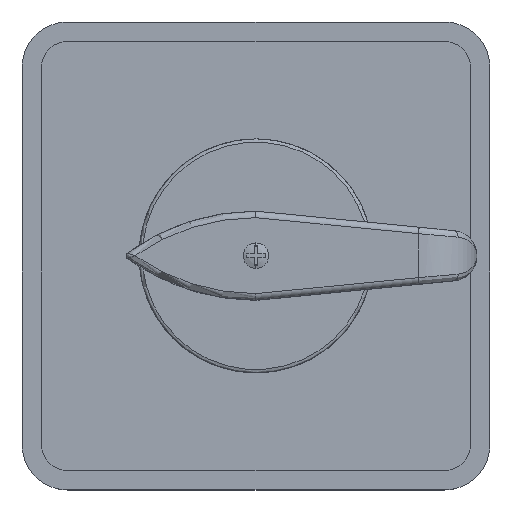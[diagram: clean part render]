
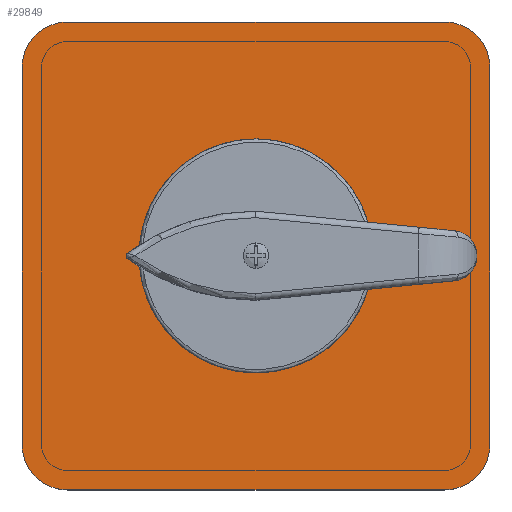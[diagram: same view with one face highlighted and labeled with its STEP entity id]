
A CAD part, top view. The second image highlights one B-rep face of the part: STEP entity #29849.
In plain terms, the highlighted planar face has unit normal (0, 0, 1).
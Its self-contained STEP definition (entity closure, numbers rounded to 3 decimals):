
#6333=CARTESIAN_POINT('',(29.,29.,3.35));
#6334=DIRECTION('',(0.,0.,1.));
#6335=DIRECTION('',(1.,0.,0.));
#6336=AXIS2_PLACEMENT_3D('',#6333,#6334,#6335);
#6338=DIRECTION('',(0.,1.,0.));
#6339=VECTOR('',#6338,58.);
#6340=CARTESIAN_POINT('',(36.,-29.,3.35));
#6341=LINE('',#6340,#6339);
#6342=CARTESIAN_POINT('',(29.,-29.,3.35));
#6343=DIRECTION('',(0.,0.,1.));
#6344=DIRECTION('',(0.,-1.,0.));
#6345=AXIS2_PLACEMENT_3D('',#6342,#6343,#6344);
#6347=DIRECTION('',(1.,0.,0.));
#6348=VECTOR('',#6347,58.);
#6349=CARTESIAN_POINT('',(-29.,-36.,3.35));
#6350=LINE('',#6349,#6348);
#6351=CARTESIAN_POINT('',(-29.,-29.,3.35));
#6352=DIRECTION('',(0.,0.,1.));
#6353=DIRECTION('',(-1.,0.,0.));
#6354=AXIS2_PLACEMENT_3D('',#6351,#6352,#6353);
#6356=DIRECTION('',(0.,-1.,0.));
#6357=VECTOR('',#6356,58.);
#6358=CARTESIAN_POINT('',(-36.,29.,3.35));
#6359=LINE('',#6358,#6357);
#6360=CARTESIAN_POINT('',(-29.,29.,3.35));
#6361=DIRECTION('',(0.,0.,1.));
#6362=DIRECTION('',(0.,1.,0.));
#6363=AXIS2_PLACEMENT_3D('',#6360,#6361,#6362);
#6365=DIRECTION('',(-1.,0.,0.));
#6366=VECTOR('',#6365,58.);
#6367=CARTESIAN_POINT('',(29.,36.,3.35));
#6368=LINE('',#6367,#6366);
#6369=DIRECTION('',(1.,0.,0.));
#6370=VECTOR('',#6369,8.);
#6371=CARTESIAN_POINT('',(-4.,4.,3.35));
#6372=LINE('',#6371,#6370);
#6381=DIRECTION('',(0.,-1.,0.));
#6382=VECTOR('',#6381,8.);
#6383=CARTESIAN_POINT('',(4.,4.,3.35));
#6384=LINE('',#6383,#6382);
#6393=DIRECTION('',(-1.,0.,0.));
#6394=VECTOR('',#6393,8.);
#6395=CARTESIAN_POINT('',(4.,-4.,3.35));
#6396=LINE('',#6395,#6394);
#6405=DIRECTION('',(0.,1.,0.));
#6406=VECTOR('',#6405,8.);
#6407=CARTESIAN_POINT('',(-4.,-4.,3.35));
#6408=LINE('',#6407,#6406);
#7255=CARTESIAN_POINT('',(0.,0.,3.35));
#7256=DIRECTION('',(0.,0.,1.));
#7257=DIRECTION('',(-0.947,0.322,0.));
#7258=AXIS2_PLACEMENT_3D('',#7255,#7256,#7257);
#7265=DIRECTION('',(-1.,0.,0.));
#7266=VECTOR('',#7265,1.727);
#7267=CARTESIAN_POINT('',(-8.52,-2.9,3.35));
#7268=LINE('',#7267,#7266);
#7290=CARTESIAN_POINT('',(0.,0.,3.35));
#7291=DIRECTION('',(0.,0.,1.));
#7292=DIRECTION('',(-0.962,0.272,0.));
#7293=AXIS2_PLACEMENT_3D('',#7290,#7291,#7292);
#7300=DIRECTION('',(1.,0.,0.));
#7301=VECTOR('',#7300,1.727);
#7302=CARTESIAN_POINT('',(-10.247,2.9,3.35));
#7303=LINE('',#7302,#7301);
#7325=CARTESIAN_POINT('',(0.,0.,3.35));
#7326=DIRECTION('',(0.,0.,1.));
#7327=DIRECTION('',(0.322,0.947,0.));
#7328=AXIS2_PLACEMENT_3D('',#7325,#7326,#7327);
#7335=DIRECTION('',(0.,1.,0.));
#7336=VECTOR('',#7335,1.727);
#7337=CARTESIAN_POINT('',(-2.9,8.52,3.35));
#7338=LINE('',#7337,#7336);
#7360=CARTESIAN_POINT('',(0.,0.,3.35));
#7361=DIRECTION('',(0.,0.,1.));
#7362=DIRECTION('',(0.272,0.962,0.));
#7363=AXIS2_PLACEMENT_3D('',#7360,#7361,#7362);
#7370=DIRECTION('',(0.,-1.,0.));
#7371=VECTOR('',#7370,1.727);
#7372=CARTESIAN_POINT('',(2.9,10.247,3.35));
#7373=LINE('',#7372,#7371);
#7395=CARTESIAN_POINT('',(0.,0.,3.35));
#7396=DIRECTION('',(0.,0.,1.));
#7397=DIRECTION('',(0.947,-0.322,0.));
#7398=AXIS2_PLACEMENT_3D('',#7395,#7396,#7397);
#7409=DIRECTION('',(1.,0.,0.));
#7410=VECTOR('',#7409,1.727);
#7411=CARTESIAN_POINT('',(8.52,2.9,3.35));
#7412=LINE('',#7411,#7410);
#7430=CARTESIAN_POINT('',(0.,0.,3.35));
#7431=DIRECTION('',(0.,0.,1.));
#7432=DIRECTION('',(0.962,-0.272,0.));
#7433=AXIS2_PLACEMENT_3D('',#7430,#7431,#7432);
#7440=DIRECTION('',(-1.,0.,0.));
#7441=VECTOR('',#7440,1.727);
#7442=CARTESIAN_POINT('',(10.247,-2.9,3.35));
#7443=LINE('',#7442,#7441);
#7465=CARTESIAN_POINT('',(0.,0.,3.35));
#7466=DIRECTION('',(0.,0.,1.));
#7467=DIRECTION('',(-0.322,-0.947,0.));
#7468=AXIS2_PLACEMENT_3D('',#7465,#7466,#7467);
#7475=DIRECTION('',(0.,-1.,0.));
#7476=VECTOR('',#7475,1.727);
#7477=CARTESIAN_POINT('',(2.9,-8.52,3.35));
#7478=LINE('',#7477,#7476);
#7500=CARTESIAN_POINT('',(0.,0.,3.35));
#7501=DIRECTION('',(0.,0.,1.));
#7502=DIRECTION('',(-0.272,-0.962,0.));
#7503=AXIS2_PLACEMENT_3D('',#7500,#7501,#7502);
#7510=DIRECTION('',(0.,1.,0.));
#7511=VECTOR('',#7510,1.727);
#7512=CARTESIAN_POINT('',(-2.9,-10.247,3.35));
#7513=LINE('',#7512,#7511);
#17400=CARTESIAN_POINT('',(36.,29.,3.35));
#17401=VERTEX_POINT('',#17400);
#17402=CARTESIAN_POINT('',(29.,36.,3.35));
#17403=VERTEX_POINT('',#17402);
#17408=CARTESIAN_POINT('',(29.,-36.,3.35));
#17409=VERTEX_POINT('',#17408);
#17410=CARTESIAN_POINT('',(36.,-29.,3.35));
#17411=VERTEX_POINT('',#17410);
#17416=CARTESIAN_POINT('',(-36.,-29.,3.35));
#17417=VERTEX_POINT('',#17416);
#17418=CARTESIAN_POINT('',(-29.,-36.,3.35));
#17419=VERTEX_POINT('',#17418);
#17424=CARTESIAN_POINT('',(-29.,36.,3.35));
#17425=VERTEX_POINT('',#17424);
#17426=CARTESIAN_POINT('',(-36.,29.,3.35));
#17427=VERTEX_POINT('',#17426);
#21884=CARTESIAN_POINT('',(-2.9,-8.52,3.35));
#21885=CARTESIAN_POINT('',(2.9,-8.52,3.35));
#21886=VERTEX_POINT('',#21884);
#21887=VERTEX_POINT('',#21885);
#21888=CARTESIAN_POINT('',(8.52,-2.9,3.35));
#21889=CARTESIAN_POINT('',(8.52,2.9,3.35));
#21890=VERTEX_POINT('',#21888);
#21891=VERTEX_POINT('',#21889);
#21892=CARTESIAN_POINT('',(2.9,8.52,3.35));
#21893=CARTESIAN_POINT('',(-2.9,8.52,3.35));
#21894=VERTEX_POINT('',#21892);
#21895=VERTEX_POINT('',#21893);
#21896=CARTESIAN_POINT('',(-8.52,2.9,3.35));
#21897=CARTESIAN_POINT('',(-8.52,-2.9,3.35));
#21898=VERTEX_POINT('',#21896);
#21899=VERTEX_POINT('',#21897);
#21916=CARTESIAN_POINT('',(10.247,-2.9,3.35));
#21917=VERTEX_POINT('',#21916);
#21920=CARTESIAN_POINT('',(10.247,2.9,3.35));
#21921=VERTEX_POINT('',#21920);
#21924=CARTESIAN_POINT('',(2.9,10.247,3.35));
#21925=VERTEX_POINT('',#21924);
#21928=CARTESIAN_POINT('',(-2.9,10.247,3.35));
#21929=VERTEX_POINT('',#21928);
#21932=CARTESIAN_POINT('',(-10.247,2.9,3.35));
#21933=VERTEX_POINT('',#21932);
#21936=CARTESIAN_POINT('',(-10.247,-2.9,3.35));
#21937=VERTEX_POINT('',#21936);
#21940=CARTESIAN_POINT('',(-2.9,-10.247,3.35));
#21941=VERTEX_POINT('',#21940);
#21944=CARTESIAN_POINT('',(2.9,-10.247,3.35));
#21945=VERTEX_POINT('',#21944);
#21948=CARTESIAN_POINT('',(-4.,4.,3.35));
#21949=CARTESIAN_POINT('',(4.,4.,3.35));
#21950=VERTEX_POINT('',#21948);
#21951=VERTEX_POINT('',#21949);
#21956=CARTESIAN_POINT('',(4.,-4.,3.35));
#21957=VERTEX_POINT('',#21956);
#21960=CARTESIAN_POINT('',(-4.,-4.,3.35));
#21961=VERTEX_POINT('',#21960);
#29784=CARTESIAN_POINT('',(0.,0.,3.35));
#29785=DIRECTION('',(0.,0.,1.));
#29786=DIRECTION('',(1.,0.,0.));
#29787=AXIS2_PLACEMENT_3D('',#29784,#29785,#29786);
#29788=PLANE('',#29787);
#29789=ORIENTED_EDGE('',*,*,#29680,.F.);
#29790=ORIENTED_EDGE('',*,*,#29696,.F.);
#29791=ORIENTED_EDGE('',*,*,#29709,.F.);
#29792=ORIENTED_EDGE('',*,*,#29724,.F.);
#29793=ORIENTED_EDGE('',*,*,#29737,.F.);
#29794=ORIENTED_EDGE('',*,*,#29752,.F.);
#29795=ORIENTED_EDGE('',*,*,#29765,.F.);
#29796=ORIENTED_EDGE('',*,*,#29777,.F.);
#29797=EDGE_LOOP('',(#29789,#29790,#29791,#29792,#29793,#29794,#29795,#29796));
#29798=FACE_OUTER_BOUND('',#29797,.F.);
#29800=ORIENTED_EDGE('',*,*,#29799,.F.);
#29802=ORIENTED_EDGE('',*,*,#29801,.F.);
#29804=ORIENTED_EDGE('',*,*,#29803,.F.);
#29806=ORIENTED_EDGE('',*,*,#29805,.F.);
#29807=EDGE_LOOP('',(#29800,#29802,#29804,#29806));
#29808=FACE_BOUND('',#29807,.F.);
#29810=ORIENTED_EDGE('',*,*,#29809,.F.);
#29812=ORIENTED_EDGE('',*,*,#29811,.F.);
#29814=ORIENTED_EDGE('',*,*,#29813,.T.);
#29816=ORIENTED_EDGE('',*,*,#29815,.F.);
#29817=EDGE_LOOP('',(#29810,#29812,#29814,#29816));
#29818=FACE_BOUND('',#29817,.F.);
#29820=ORIENTED_EDGE('',*,*,#29819,.F.);
#29822=ORIENTED_EDGE('',*,*,#29821,.F.);
#29824=ORIENTED_EDGE('',*,*,#29823,.T.);
#29826=ORIENTED_EDGE('',*,*,#29825,.F.);
#29827=EDGE_LOOP('',(#29820,#29822,#29824,#29826));
#29828=FACE_BOUND('',#29827,.F.);
#29830=ORIENTED_EDGE('',*,*,#29829,.F.);
#29832=ORIENTED_EDGE('',*,*,#29831,.F.);
#29834=ORIENTED_EDGE('',*,*,#29833,.T.);
#29836=ORIENTED_EDGE('',*,*,#29835,.F.);
#29837=EDGE_LOOP('',(#29830,#29832,#29834,#29836));
#29838=FACE_BOUND('',#29837,.F.);
#29840=ORIENTED_EDGE('',*,*,#29839,.F.);
#29842=ORIENTED_EDGE('',*,*,#29841,.F.);
#29844=ORIENTED_EDGE('',*,*,#29843,.T.);
#29846=ORIENTED_EDGE('',*,*,#29845,.F.);
#29847=EDGE_LOOP('',(#29840,#29842,#29844,#29846));
#29848=FACE_BOUND('',#29847,.F.);
#29849=ADVANCED_FACE('',(#29798,#29808,#29818,#29828,#29838,#29848),#29788,.T.);
#6337=CIRCLE('',#6336,7.);
#6346=CIRCLE('',#6345,7.);
#6355=CIRCLE('',#6354,7.);
#6364=CIRCLE('',#6363,7.);
#7259=CIRCLE('',#7258,9.);
#7294=CIRCLE('',#7293,10.65);
#7329=CIRCLE('',#7328,9.);
#7364=CIRCLE('',#7363,10.65);
#7399=CIRCLE('',#7398,9.);
#7434=CIRCLE('',#7433,10.65);
#7469=CIRCLE('',#7468,9.);
#7504=CIRCLE('',#7503,10.65);
#29680=EDGE_CURVE('',#17401,#17403,#6337,.T.);
#29696=EDGE_CURVE('',#17411,#17401,#6341,.T.);
#29709=EDGE_CURVE('',#17409,#17411,#6346,.T.);
#29724=EDGE_CURVE('',#17419,#17409,#6350,.T.);
#29737=EDGE_CURVE('',#17417,#17419,#6355,.T.);
#29752=EDGE_CURVE('',#17427,#17417,#6359,.T.);
#29765=EDGE_CURVE('',#17425,#17427,#6364,.T.);
#29777=EDGE_CURVE('',#17403,#17425,#6368,.T.);
#29799=EDGE_CURVE('',#21950,#21951,#6372,.T.);
#29801=EDGE_CURVE('',#21961,#21950,#6408,.T.);
#29803=EDGE_CURVE('',#21957,#21961,#6396,.T.);
#29805=EDGE_CURVE('',#21951,#21957,#6384,.T.);
#29809=EDGE_CURVE('',#21898,#21899,#7259,.T.);
#29811=EDGE_CURVE('',#21933,#21898,#7303,.T.);
#29813=EDGE_CURVE('',#21933,#21937,#7294,.T.);
#29815=EDGE_CURVE('',#21899,#21937,#7268,.T.);
#29819=EDGE_CURVE('',#21894,#21895,#7329,.T.);
#29821=EDGE_CURVE('',#21925,#21894,#7373,.T.);
#29823=EDGE_CURVE('',#21925,#21929,#7364,.T.);
#29825=EDGE_CURVE('',#21895,#21929,#7338,.T.);
#29829=EDGE_CURVE('',#21890,#21891,#7399,.T.);
#29831=EDGE_CURVE('',#21917,#21890,#7443,.T.);
#29833=EDGE_CURVE('',#21917,#21921,#7434,.T.);
#29835=EDGE_CURVE('',#21891,#21921,#7412,.T.);
#29839=EDGE_CURVE('',#21886,#21887,#7469,.T.);
#29841=EDGE_CURVE('',#21941,#21886,#7513,.T.);
#29843=EDGE_CURVE('',#21941,#21945,#7504,.T.);
#29845=EDGE_CURVE('',#21887,#21945,#7478,.T.);
